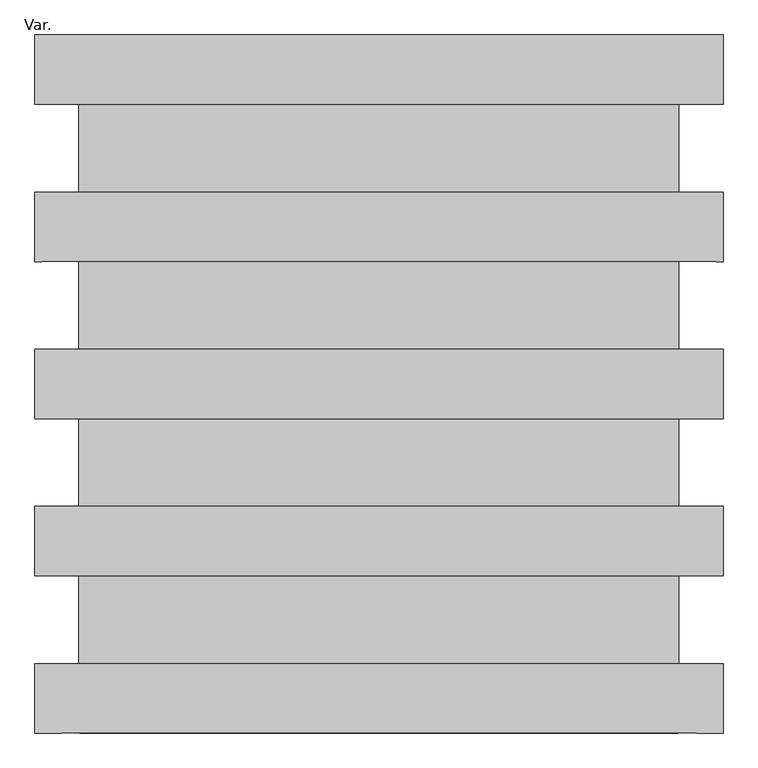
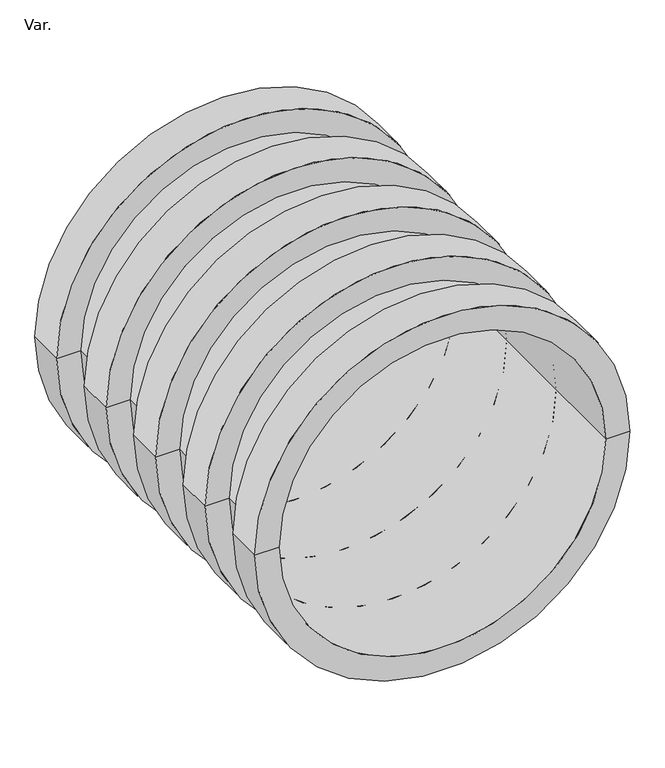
"""IFC4 building model written with IfcOpenShell, lengths in millimetres: pipe fitting geometry, PlastigamaWavin_Unionesdetubería_ZNoUsarTanque1200L : Var.."""

from ifc_helpers import new_model, si_unit, frame, origin, place, context, project, spatial, polyline, circle_curve, source, transform, mapped, element, save
from ifc_brep_helpers import plane_surface, cylinder_surface, revolved_surface, advanced_brep


def var_dd11a43b(model_context):
    return source(origin(), model_context, "Body", "AdvancedBrep", [
        advanced_brep(
        [(-549.5, 0.0, 0.0), (549.5, 0.0, 0.0), (478.1, 0.0, 0.0), (-478.1, 0.0, 0.0), (-549.5, 110.8, 0.0), (549.5, 110.8, 0.0), (549.5, 1114.8, 0.0), (-549.5, 1114.8, 0.0), (-478.1, 1114.8, 0.0), (478.1, 1114.8, 0.0), (549.5, 1004.0, 0.0), (-549.5, 1004.0, 0.0), (479.1, 1004.0, 0.0), (-479.1, 1004.0, 0.0), (479.1, 863.8, 0.0), (-479.1, 863.8, 0.0), (549.5, 863.8, 0.0), (-549.5, 863.8, 0.0), (549.5, 753.0, 0.0), (-549.5, 753.0, 0.0), (479.1, 753.0, 0.0), (-479.1, 753.0, 0.0), (479.1, 612.8, 0.0), (-479.1, 612.8, 0.0), (549.5, 612.8, 0.0), (-549.5, 612.8, 0.0), (549.5, 502.0, 0.0), (-549.5, 502.0, 0.0), (479.1, 502.0, 0.0), (-479.1, 502.0, 0.0), (479.1, 361.8, 0.0), (-479.1, 361.8, 0.0), (549.5, 361.8, 0.0), (-549.5, 361.8, 0.0), (549.5, 251.0, 0.0), (-549.5, 251.0, 0.0), (479.1, 251.0, 0.0), (-479.1, 251.0, 0.0), (479.1, 110.8, 0.0), (-479.1, 110.8, 0.0)],
        [
            (0, 1, circle_curve(frame((0.0, 0.0, 0.0), z_axis=(0.0, -1.0, 0.0), x_axis=(-1.0, 0.0, 0.0)), 549.5)),
            (1, 2),
            (2, 3, circle_curve(frame((0.0, 0.0, 0.0), z_axis=(0.0, 1.0, 0.0), x_axis=(1.0, 0.0, 0.0)), 478.1)),
            (3, 0),
            (1, 0, circle_curve(frame((0.0, 0.0, 0.0), z_axis=(0.0, -1.0, 0.0), x_axis=(-1.0, 0.0, 0.0)), 549.5)),
            (3, 2, circle_curve(frame((0.0, 0.0, 0.0), z_axis=(0.0, 1.0, 0.0), x_axis=(1.0, 0.0, 0.0)), 478.1)),
            (0, 4),
            (4, 5, circle_curve(frame((0.0, 110.8, 0.0), z_axis=(0.0, -1.0, 0.0), x_axis=(-1.0, 0.0, 0.0)), 549.5)),
            (5, 1),
            (5, 4, circle_curve(frame((0.0, 110.8, 0.0), z_axis=(0.0, -1.0, 0.0), x_axis=(-1.0, 0.0, 0.0)), 549.5)),
            (6, 7, circle_curve(frame((0.0, 1114.8, 0.0), z_axis=(0.0, 1.0, 0.0), x_axis=(-1.0, 0.0, 0.0)), 549.5)),
            (7, 8),
            (8, 9, circle_curve(frame((0.0, 1114.8, 0.0), z_axis=(0.0, -1.0, 0.0), x_axis=(1.0, 0.0, 0.0)), 478.1)),
            (9, 6),
            (7, 6, circle_curve(frame((0.0, 1114.8, 0.0), z_axis=(0.0, 1.0, 0.0), x_axis=(-1.0, 0.0, 0.0)), 549.5)),
            (9, 8, circle_curve(frame((0.0, 1114.8, 0.0), z_axis=(0.0, -1.0, 0.0), x_axis=(1.0, 0.0, 0.0)), 478.1)),
            (6, 10),
            (10, 11, circle_curve(frame((0.0, 1004.0, 0.0), z_axis=(0.0, 1.0, 0.0), x_axis=(-1.0, 0.0, 0.0)), 549.5)),
            (11, 7),
            (11, 10, circle_curve(frame((0.0, 1004.0, 0.0), z_axis=(0.0, 1.0, 0.0), x_axis=(-1.0, 0.0, 0.0)), 549.5)),
            (10, 12),
            (12, 13, circle_curve(frame((0.0, 1004.0, 0.0), z_axis=(0.0, 1.0, 0.0), x_axis=(-1.0, 0.0, 0.0)), 479.1)),
            (13, 11),
            (13, 12, circle_curve(frame((0.0, 1004.0, 0.0), z_axis=(0.0, 1.0, 0.0), x_axis=(-1.0, 0.0, 0.0)), 479.1)),
            (12, 14),
            (14, 15, circle_curve(frame((0.0, 863.8, 0.0), z_axis=(0.0, 1.0, 0.0), x_axis=(-1.0, 0.0, 0.0)), 479.1)),
            (15, 13),
            (15, 14, circle_curve(frame((0.0, 863.8, 0.0), z_axis=(0.0, 1.0, 0.0), x_axis=(-1.0, 0.0, 0.0)), 479.1)),
            (14, 16),
            (16, 17, circle_curve(frame((0.0, 863.8, 0.0), z_axis=(0.0, 1.0, 0.0), x_axis=(-1.0, 0.0, 0.0)), 549.5)),
            (17, 15),
            (17, 16, circle_curve(frame((0.0, 863.8, 0.0), z_axis=(0.0, 1.0, 0.0), x_axis=(-1.0, 0.0, 0.0)), 549.5)),
            (16, 18),
            (18, 19, circle_curve(frame((0.0, 753.0, 0.0), z_axis=(0.0, 1.0, 0.0), x_axis=(-1.0, 0.0, 0.0)), 549.5)),
            (19, 17),
            (19, 18, circle_curve(frame((0.0, 753.0, 0.0), z_axis=(0.0, 1.0, 0.0), x_axis=(-1.0, 0.0, 0.0)), 549.5)),
            (18, 20),
            (20, 21, circle_curve(frame((0.0, 753.0, 0.0), z_axis=(0.0, 1.0, 0.0), x_axis=(-1.0, 0.0, 0.0)), 479.1)),
            (21, 19),
            (21, 20, circle_curve(frame((0.0, 753.0, 0.0), z_axis=(0.0, 1.0, 0.0), x_axis=(-1.0, 0.0, 0.0)), 479.1)),
            (20, 22),
            (22, 23, circle_curve(frame((0.0, 612.8, 0.0), z_axis=(0.0, 1.0, 0.0), x_axis=(-1.0, 0.0, 0.0)), 479.1)),
            (23, 21),
            (23, 22, circle_curve(frame((0.0, 612.8, 0.0), z_axis=(0.0, 1.0, 0.0), x_axis=(-1.0, 0.0, 0.0)), 479.1)),
            (22, 24),
            (24, 25, circle_curve(frame((0.0, 612.8, 0.0), z_axis=(0.0, 1.0, 0.0), x_axis=(-1.0, 0.0, 0.0)), 549.5)),
            (25, 23),
            (25, 24, circle_curve(frame((0.0, 612.8, 0.0), z_axis=(0.0, 1.0, 0.0), x_axis=(-1.0, 0.0, 0.0)), 549.5)),
            (24, 26),
            (26, 27, circle_curve(frame((0.0, 502.0, 0.0), z_axis=(0.0, 1.0, 0.0), x_axis=(-1.0, 0.0, 0.0)), 549.5)),
            (27, 25),
            (27, 26, circle_curve(frame((0.0, 502.0, 0.0), z_axis=(0.0, 1.0, 0.0), x_axis=(-1.0, 0.0, 0.0)), 549.5)),
            (26, 28),
            (28, 29, circle_curve(frame((0.0, 502.0, 0.0), z_axis=(0.0, 1.0, 0.0), x_axis=(-1.0, 0.0, 0.0)), 479.1)),
            (29, 27),
            (29, 28, circle_curve(frame((0.0, 502.0, 0.0), z_axis=(0.0, 1.0, 0.0), x_axis=(-1.0, 0.0, 0.0)), 479.1)),
            (28, 30),
            (30, 31, circle_curve(frame((0.0, 361.8, 0.0), z_axis=(0.0, 1.0, 0.0), x_axis=(-1.0, 0.0, 0.0)), 479.1)),
            (31, 29),
            (31, 30, circle_curve(frame((0.0, 361.8, 0.0), z_axis=(0.0, 1.0, 0.0), x_axis=(-1.0, 0.0, 0.0)), 479.1)),
            (30, 32),
            (32, 33, circle_curve(frame((0.0, 361.8, 0.0), z_axis=(0.0, 1.0, 0.0), x_axis=(-1.0, 0.0, 0.0)), 549.5)),
            (33, 31),
            (33, 32, circle_curve(frame((0.0, 361.8, 0.0), z_axis=(0.0, 1.0, 0.0), x_axis=(-1.0, 0.0, 0.0)), 549.5)),
            (32, 34),
            (34, 35, circle_curve(frame((0.0, 251.0, 0.0), z_axis=(0.0, 1.0, 0.0), x_axis=(-1.0, 0.0, 0.0)), 549.5)),
            (35, 33),
            (35, 34, circle_curve(frame((0.0, 251.0, 0.0), z_axis=(0.0, 1.0, 0.0), x_axis=(-1.0, 0.0, 0.0)), 549.5)),
            (34, 36),
            (36, 37, circle_curve(frame((0.0, 251.0, 0.0), z_axis=(0.0, 1.0, 0.0), x_axis=(-1.0, 0.0, 0.0)), 479.1)),
            (37, 35),
            (37, 36, circle_curve(frame((0.0, 251.0, 0.0), z_axis=(0.0, 1.0, 0.0), x_axis=(-1.0, 0.0, 0.0)), 479.1)),
            (36, 38),
            (38, 39, circle_curve(frame((0.0, 110.8, 0.0), z_axis=(0.0, 1.0, 0.0), x_axis=(-1.0, 0.0, 0.0)), 479.1)),
            (39, 37),
            (39, 38, circle_curve(frame((0.0, 110.8, 0.0), z_axis=(0.0, 1.0, 0.0), x_axis=(-1.0, 0.0, 0.0)), 479.1)),
            (4, 39),
            (38, 5),
            (2, 9),
            (8, 3),
        ],
        [
            plane_surface(frame((0.0, 0.0, 0.0), z_axis=(0.0, -1.0, 0.0), x_axis=(-1.0, 0.0, 0.0))),
            cylinder_surface(frame((0.0, 0.0, 0.0), z_axis=(0.0, -1.0, 0.0), x_axis=(-1.0, 0.0, 0.0)), 549.5),
            plane_surface(frame((0.0, 1114.8, 0.0), z_axis=(0.0, 1.0, 0.0), x_axis=(-1.0, 0.0, 0.0))),
            plane_surface(frame((0.0, 1004.0, 0.0), z_axis=(0.0, -1.0, 0.0), x_axis=(-1.0, 0.0, 0.0))),
            cylinder_surface(frame((0.0, 0.0, 0.0), z_axis=(0.0, -1.0, 0.0), x_axis=(-1.0, 0.0, 0.0)), 479.1),
            plane_surface(frame((0.0, 863.8, 0.0), z_axis=(0.0, 1.0, 0.0), x_axis=(-1.0, 0.0, 0.0))),
            plane_surface(frame((0.0, 753.0, 0.0), z_axis=(0.0, -1.0, 0.0), x_axis=(-1.0, 0.0, 0.0))),
            plane_surface(frame((0.0, 612.8, 0.0), z_axis=(0.0, 1.0, 0.0), x_axis=(-1.0, 0.0, 0.0))),
            plane_surface(frame((0.0, 502.0, 0.0), z_axis=(0.0, -1.0, 0.0), x_axis=(-1.0, 0.0, 0.0))),
            plane_surface(frame((0.0, 361.8, 0.0), z_axis=(0.0, 1.0, 0.0), x_axis=(-1.0, 0.0, 0.0))),
            plane_surface(frame((0.0, 251.0, 0.0), z_axis=(0.0, -1.0, 0.0), x_axis=(-1.0, 0.0, 0.0))),
            plane_surface(frame((0.0, 110.8, 0.0), z_axis=(0.0, 1.0, 0.0), x_axis=(-1.0, 0.0, 0.0))),
            revolved_surface(polyline([(478.1, 0.0, 0.0), (478.1, 1114.8, 0.0)]), (0.0, 1114.8, 0.0), (0.0, -1.0, 0.0)),
        ],
        [
            (0, [[1, 2, 3, 4]]),
            (0, [[5, -4, 6, -2]]),
            (1, [[-1, 7, 8, 9]]),
            (1, [[-5, -9, 10, -7]]),
            (2, [[11, 12, 13, 14]]),
            (2, [[15, -14, 16, -12]]),
            (1, [[-11, 17, 18, 19]]),
            (1, [[-15, -19, 20, -17]]),
            (3, [[-18, 21, 22, 23]]),
            (3, [[-20, -23, 24, -21]]),
            (4, [[-22, 25, 26, 27]]),
            (4, [[-24, -27, 28, -25]]),
            (5, [[-26, 29, 30, 31]]),
            (5, [[-28, -31, 32, -29]]),
            (1, [[-30, 33, 34, 35]]),
            (1, [[-32, -35, 36, -33]]),
            (6, [[-34, 37, 38, 39]]),
            (6, [[-36, -39, 40, -37]]),
            (4, [[-38, 41, 42, 43]]),
            (4, [[-40, -43, 44, -41]]),
            (7, [[-42, 45, 46, 47]]),
            (7, [[-44, -47, 48, -45]]),
            (1, [[-46, 49, 50, 51]]),
            (1, [[-48, -51, 52, -49]]),
            (8, [[-50, 53, 54, 55]]),
            (8, [[-52, -55, 56, -53]]),
            (4, [[-54, 57, 58, 59]]),
            (4, [[-56, -59, 60, -57]]),
            (9, [[-58, 61, 62, 63]]),
            (9, [[-60, -63, 64, -61]]),
            (1, [[-62, 65, 66, 67]]),
            (1, [[-64, -67, 68, -65]]),
            (10, [[-66, 69, 70, 71]]),
            (10, [[-68, -71, 72, -69]]),
            (4, [[-70, 73, 74, 75]]),
            (4, [[-72, -75, 76, -73]]),
            (11, [[-8, 77, -74, 78]]),
            (11, [[-10, -78, -76, -77]]),
            (12, [[79, -13, 80, -3]]),
            (12, [[-79, -6, -80, -16]]),
        ],
    ),
    ])


if __name__ == "__main__":
    model = new_model("IFC4")
    model_context = context("Model", 3, world=origin())
    ifc_project = project(units=[si_unit("LENGTHUNIT", "METRE", prefix="MILLI")], contexts=[model_context])
    site = spatial("IfcSite", under=ifc_project)
    building = spatial("IfcBuilding", under=site)
    placement = place(None, origin())
    var_shape = var_dd11a43b(model_context)
    element("IfcPipeFitting", 1, ObjectType="PlastigamaWavin_Unionesdetubería_ZNoUsarTanque1200L : Var.", at=placement, inside=building, context=model_context, shape_type="MappedRepresentation", body=[
        mapped(var_shape, transform((0.0, 0.0, 0.0), x_axis=(1.0, 0.0, 0.0), y_axis=(0.0, 1.0, 0.0), z_axis=(0.0, 0.0, 1.0))),
    ])
    save(model, "model.ifc")
